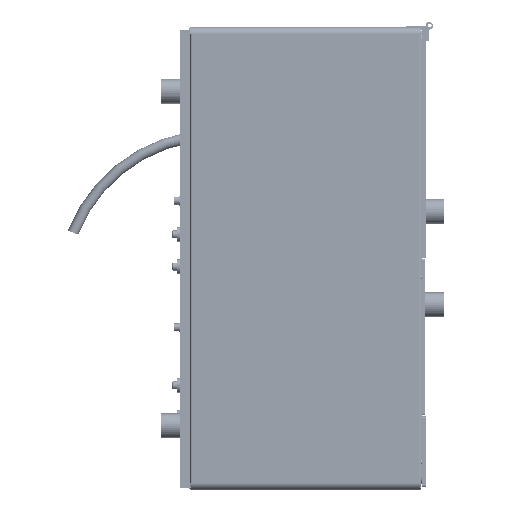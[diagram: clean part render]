
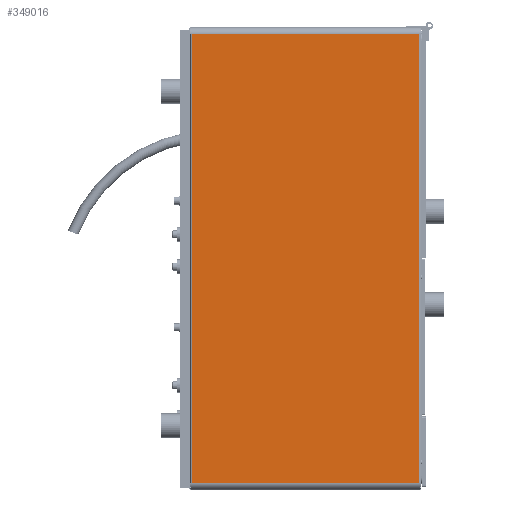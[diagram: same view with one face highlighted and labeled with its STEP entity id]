
A CAD part, left-side view. The second image highlights one B-rep face of the part: STEP entity #349016.
In plain terms, the highlighted planar face has unit normal (-1, 0, 0).
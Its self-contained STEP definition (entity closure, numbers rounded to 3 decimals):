
#17418=PLANE('',#370177);
#35688=FACE_OUTER_BOUND('',#53492,.T.);
#53492=EDGE_LOOP('',(#309361,#309362,#309363,#309364));
#92614=LINE('',#621959,#132273);
#92678=LINE('',#622152,#132337);
#92679=LINE('',#622153,#132338);
#92680=LINE('',#622154,#132339);
#132273=VECTOR('',#449912,10.);
#132337=VECTOR('',#450082,10.);
#132338=VECTOR('',#450083,10.);
#132339=VECTOR('',#450084,10.);
#170033=VERTEX_POINT('',#621956);
#170034=VERTEX_POINT('',#621958);
#170109=VERTEX_POINT('',#622150);
#170110=VERTEX_POINT('',#622151);
#216887=EDGE_CURVE('',#170034,#170033,#92614,.T.);
#216983=EDGE_CURVE('',#170109,#170110,#92678,.T.);
#216984=EDGE_CURVE('',#170110,#170034,#92679,.T.);
#216985=EDGE_CURVE('',#170033,#170109,#92680,.T.);
#309361=ORIENTED_EDGE('',*,*,#216983,.T.);
#309362=ORIENTED_EDGE('',*,*,#216984,.T.);
#309363=ORIENTED_EDGE('',*,*,#216887,.T.);
#309364=ORIENTED_EDGE('',*,*,#216985,.T.);
#349016=ADVANCED_FACE('',(#35688),#17418,.T.);
#370177=AXIS2_PLACEMENT_3D('',#622149,#450080,#450081);
#449912=DIRECTION('',(0.,0.,-1.));
#450080=DIRECTION('center_axis',(-1.,0.,0.));
#450081=DIRECTION('ref_axis',(0.,0.,
-1.));
#450082=DIRECTION('',(0.,0.,1.));
#450083=DIRECTION('',(0.,1.,0.));
#450084=DIRECTION('',(0.,-1.,0.));
#621956=CARTESIAN_POINT('',(-550.5,-20.,7.5));
#621958=CARTESIAN_POINT('',(-550.5,-20.,734.5));
#621959=CARTESIAN_POINT('',(-550.5,-20.,203.5));
#622149=CARTESIAN_POINT('Origin',(-550.5,-204.,371.));
#622150=CARTESIAN_POINT('',(-550.5,-388.,7.5));
#622151=CARTESIAN_POINT('',(-550.5,-388.,734.5));
#622152=CARTESIAN_POINT('',(-550.5,-388.,552.75));
#622153=CARTESIAN_POINT('',(-550.5,-297.5,734.5));
#622154=CARTESIAN_POINT('',(-550.5,-110.5,7.5));
